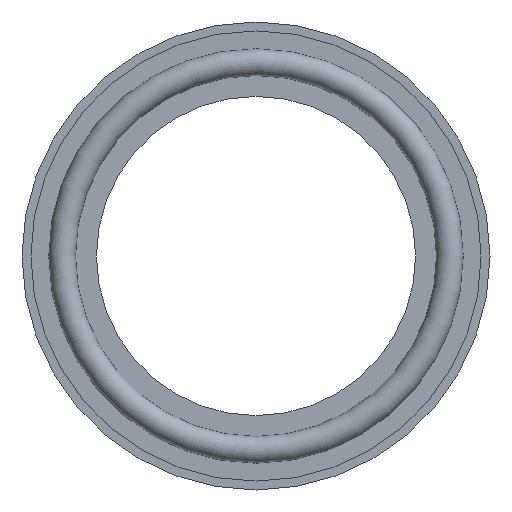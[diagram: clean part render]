
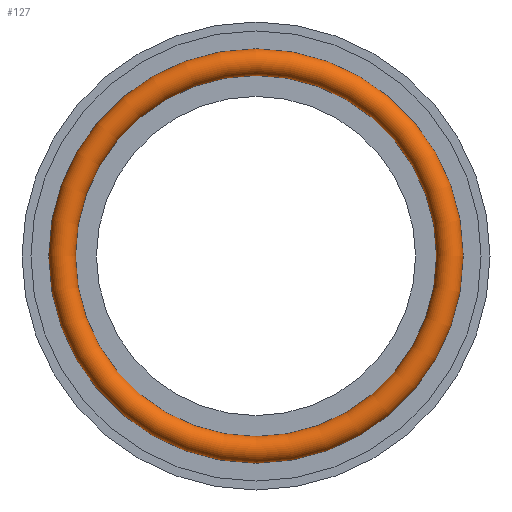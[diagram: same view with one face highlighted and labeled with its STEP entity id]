
A CAD part, front view. The second image highlights one B-rep face of the part: STEP entity #127.
In plain terms, the highlighted toroidal (fillet/blend) face has major radius 21.75 mm and minor radius 1.5 mm.
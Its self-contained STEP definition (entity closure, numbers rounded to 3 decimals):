
#21=TOROIDAL_SURFACE('',#158,21.75,1.5);
#39=ORIENTED_EDGE('',*,*,#53,.T.);
#40=ORIENTED_EDGE('',*,*,#52,.F.);
#52=EDGE_CURVE('',#62,#62,#72,.T.);
#53=EDGE_CURVE('',#63,#63,#73,.T.);
#62=VERTEX_POINT('',#228);
#63=VERTEX_POINT('',#231);
#72=CIRCLE('',#157,20.25);
#73=CIRCLE('',#159,23.25);
#89=EDGE_LOOP('',(#39));
#90=EDGE_LOOP('',(#40));
#109=FACE_BOUND('',#89,.T.);
#110=FACE_BOUND('',#90,.T.);
#127=ADVANCED_FACE('',(#109,#110),#21,.T.);
#157=AXIS2_PLACEMENT_3D('',#227,#193,#194);
#158=AXIS2_PLACEMENT_3D('',#229,#195,#196);
#159=AXIS2_PLACEMENT_3D('',#230,#197,#198);
#193=DIRECTION('',(0.,-1.,0.));
#194=DIRECTION('',(0.,0.,-1.));
#195=DIRECTION('',(0.,-1.,0.));
#196=DIRECTION('',(0.,0.,-1.));
#197=DIRECTION('',(0.,-1.,0.));
#198=DIRECTION('',(0.,0.,-1.));
#227=CARTESIAN_POINT('',(0.,2.491,0.));
#228=CARTESIAN_POINT('',(0.,2.491,-20.25));
#229=CARTESIAN_POINT('',(0.,2.5,0.));
#230=CARTESIAN_POINT('',(0.,2.5,0.));
#231=CARTESIAN_POINT('',(0.,2.5,-23.25));
